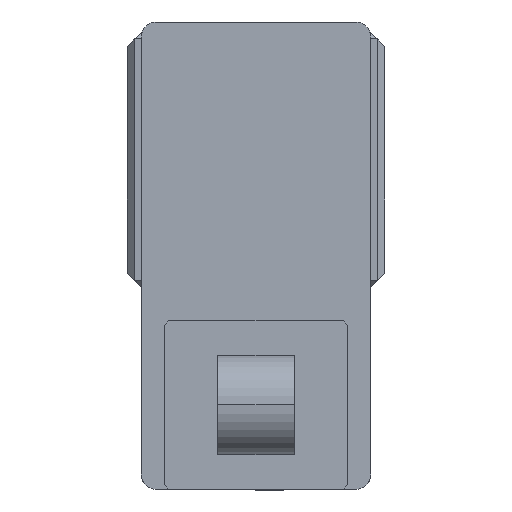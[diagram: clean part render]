
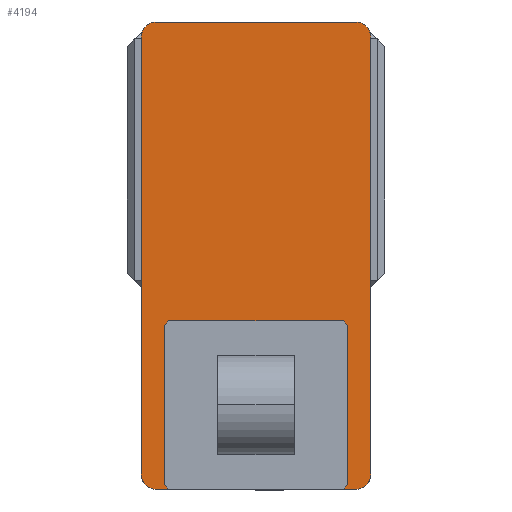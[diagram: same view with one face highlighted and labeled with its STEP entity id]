
A CAD part, left-side view. The second image highlights one B-rep face of the part: STEP entity #4194.
In plain terms, the highlighted planar face has unit normal (-1, 0, 0) as drawn and (0, 0, 1) by its records, which use the part's own axes.
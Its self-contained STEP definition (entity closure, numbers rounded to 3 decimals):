
#214 = CARTESIAN_POINT ( 'NONE',  ( -65., 142.5, 105. ) ) ;
#910 = ORIENTED_EDGE ( 'NONE', *, *, #18460, .T. ) ;
#958 = ORIENTED_EDGE ( 'NONE', *, *, #14439, .T. ) ;
#1268 = VERTEX_POINT ( 'NONE', #13183 ) ;
#1503 = CARTESIAN_POINT ( 'NONE',  ( -65., 152.5, 105. ) ) ;
#2018 = DIRECTION ( 'NONE',  ( 1., 0., 0. ) ) ;
#2287 = LINE ( 'NONE', #20788, #16005 ) ;
#2729 = VECTOR ( 'NONE', #5096, 1000. ) ;
#2741 = FACE_OUTER_BOUND ( 'NONE', #8848, .T. ) ;
#2953 = DIRECTION ( 'NONE',  ( 0., 0., 1. ) ) ;
#3015 = VERTEX_POINT ( 'NONE', #8645 ) ;
#3821 = DIRECTION ( 'NONE',  ( 0., 0., 1. ) ) ;
#4059 = CARTESIAN_POINT ( 'NONE',  ( 65., -152.5, 105. ) ) ;
#4126 = DIRECTION ( 'NONE',  ( -1., 0., 0. ) ) ;
#4194 = ADVANCED_FACE ( 'NONE', ( #2741 ), #21015, .T. ) ;
#4770 = DIRECTION ( 'NONE',  ( 0., 1., 0. ) ) ;
#4794 = VECTOR ( 'NONE', #4126, 1000. ) ;
#4889 = CARTESIAN_POINT ( 'NONE',  ( 0., 0., 105. ) ) ;
#5096 = DIRECTION ( 'NONE',  ( 1., 0., 0. ) ) ;
#6562 = ORIENTED_EDGE ( 'NONE', *, *, #15841, .T. ) ;
#6734 = CIRCLE ( 'NONE', #10592, 10. ) ;
#7175 = ORIENTED_EDGE ( 'NONE', *, *, #10895, .T. ) ;
#7470 = LINE ( 'NONE', #12230, #2729 ) ;
#7916 = DIRECTION ( 'NONE',  ( 0., 0., 1. ) ) ;
#7962 = VERTEX_POINT ( 'NONE', #8784 ) ;
#7964 = EDGE_CURVE ( 'NONE', #18915, #3015, #21774, .T. ) ;
#8529 = ORIENTED_EDGE ( 'NONE', *, *, #14060, .T. ) ;
#8645 = CARTESIAN_POINT ( 'NONE',  ( -75., -142.5, 105. ) ) ;
#8784 = CARTESIAN_POINT ( 'NONE',  ( 75., -142.5, 105. ) ) ;
#8848 = EDGE_LOOP ( 'NONE', ( #910, #18434, #8529, #22950, #958, #6562, #20478, #7175 ) ) ;
#9367 = CIRCLE ( 'NONE', #21686, 10. ) ;
#9474 = VERTEX_POINT ( 'NONE', #4059 ) ;
#10562 = AXIS2_PLACEMENT_3D ( 'NONE', #18632, #7916, #20435 ) ;
#10592 = AXIS2_PLACEMENT_3D ( 'NONE', #13676, #2953, #15438 ) ;
#10647 = CARTESIAN_POINT ( 'NONE',  ( -65., -152.5, 105. ) ) ;
#10895 = EDGE_CURVE ( 'NONE', #3015, #18546, #17507, .T. ) ;
#11216 = CARTESIAN_POINT ( 'NONE',  ( -75., 152.5, 105. ) ) ;
#11448 = VERTEX_POINT ( 'NONE', #22911 ) ;
#12095 = DIRECTION ( 'NONE',  ( 1., 0., 0. ) ) ;
#12230 = CARTESIAN_POINT ( 'NONE',  ( -75., -152.5, 105. ) ) ;
#12737 = DIRECTION ( 'NONE',  ( 0., 0., 1. ) ) ;
#13183 = CARTESIAN_POINT ( 'NONE',  ( 65., 152.5, 105. ) ) ;
#13676 = CARTESIAN_POINT ( 'NONE',  ( 65., 142.5, 105. ) ) ;
#14060 = EDGE_CURVE ( 'NONE', #7962, #11448, #2287, .T. ) ;
#14294 = LINE ( 'NONE', #11216, #4794 ) ;
#14439 = EDGE_CURVE ( 'NONE', #1268, #20498, #14294, .T. ) ;
#14479 = AXIS2_PLACEMENT_3D ( 'NONE', #214, #12737, #2018 ) ;
#14524 = CARTESIAN_POINT ( 'NONE',  ( 65., -142.5, 105. ) ) ;
#14756 = EDGE_CURVE ( 'NONE', #11448, #1268, #6734, .T. ) ;
#15405 = CARTESIAN_POINT ( 'NONE',  ( -75., 142.5, 105. ) ) ;
#15438 = DIRECTION ( 'NONE',  ( 1., 0., 0. ) ) ;
#15841 = EDGE_CURVE ( 'NONE', #20498, #18915, #21819, .T. ) ;
#16005 = VECTOR ( 'NONE', #4770, 1000. ) ;
#16308 = DIRECTION ( 'NONE',  ( 1., 0., 0. ) ) ;
#17507 = CIRCLE ( 'NONE', #10562, 10. ) ;
#17607 = VECTOR ( 'NONE', #23110, 1000. ) ;
#18434 = ORIENTED_EDGE ( 'NONE', *, *, #23197, .T. ) ;
#18460 = EDGE_CURVE ( 'NONE', #18546, #9474, #7470, .T. ) ;
#18546 = VERTEX_POINT ( 'NONE', #10647 ) ;
#18632 = CARTESIAN_POINT ( 'NONE',  ( -65., -142.5, 105. ) ) ;
#18915 = VERTEX_POINT ( 'NONE', #15405 ) ;
#19031 = AXIS2_PLACEMENT_3D ( 'NONE', #4889, #22800, #12095 ) ;
#20435 = DIRECTION ( 'NONE',  ( 1., 0., 0. ) ) ;
#20478 = ORIENTED_EDGE ( 'NONE', *, *, #7964, .T. ) ;
#20498 = VERTEX_POINT ( 'NONE', #1503 ) ;
#20788 = CARTESIAN_POINT ( 'NONE',  ( 75., 152.5, 105. ) ) ;
#21015 = PLANE ( 'NONE',  #19031 ) ;
#21309 = CARTESIAN_POINT ( 'NONE',  ( -75., 152.5, 105. ) ) ;
#21686 = AXIS2_PLACEMENT_3D ( 'NONE', #14524, #3821, #16308 ) ;
#21774 = LINE ( 'NONE', #21309, #17607 ) ;
#21819 = CIRCLE ( 'NONE', #14479, 10. ) ;
#22800 = DIRECTION ( 'NONE',  ( 0., 0., 1. ) ) ;
#22911 = CARTESIAN_POINT ( 'NONE',  ( 75., 142.5, 105. ) ) ;
#22950 = ORIENTED_EDGE ( 'NONE', *, *, #14756, .T. ) ;
#23110 = DIRECTION ( 'NONE',  ( 0., -1., 0. ) ) ;
#23197 = EDGE_CURVE ( 'NONE', #9474, #7962, #9367, .T. ) ;
